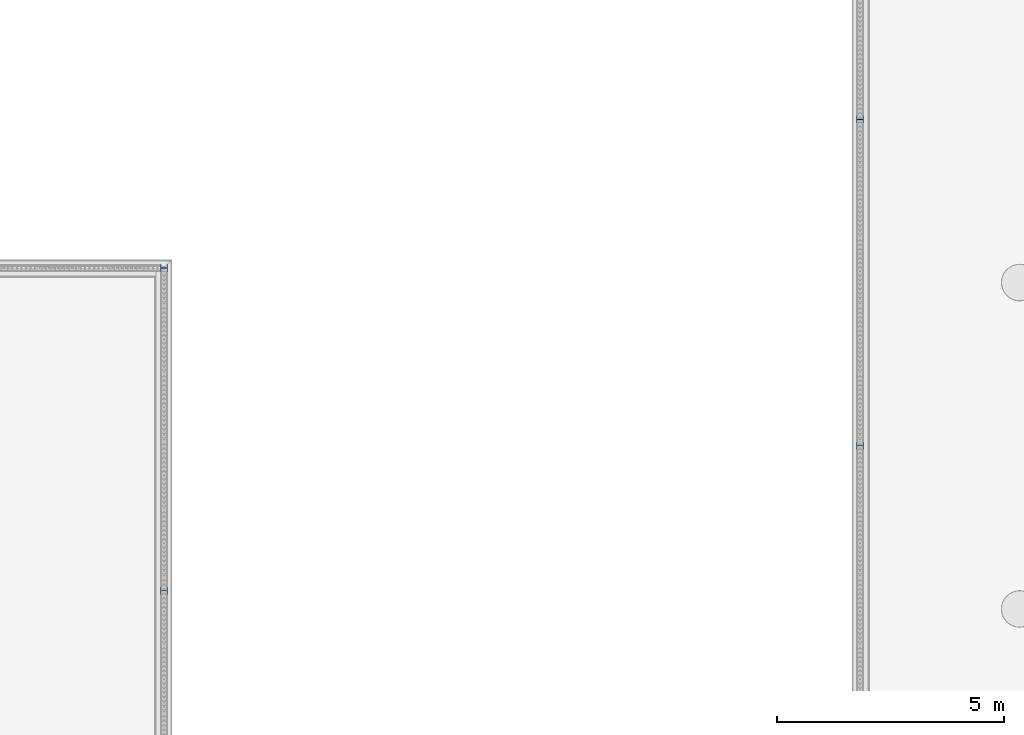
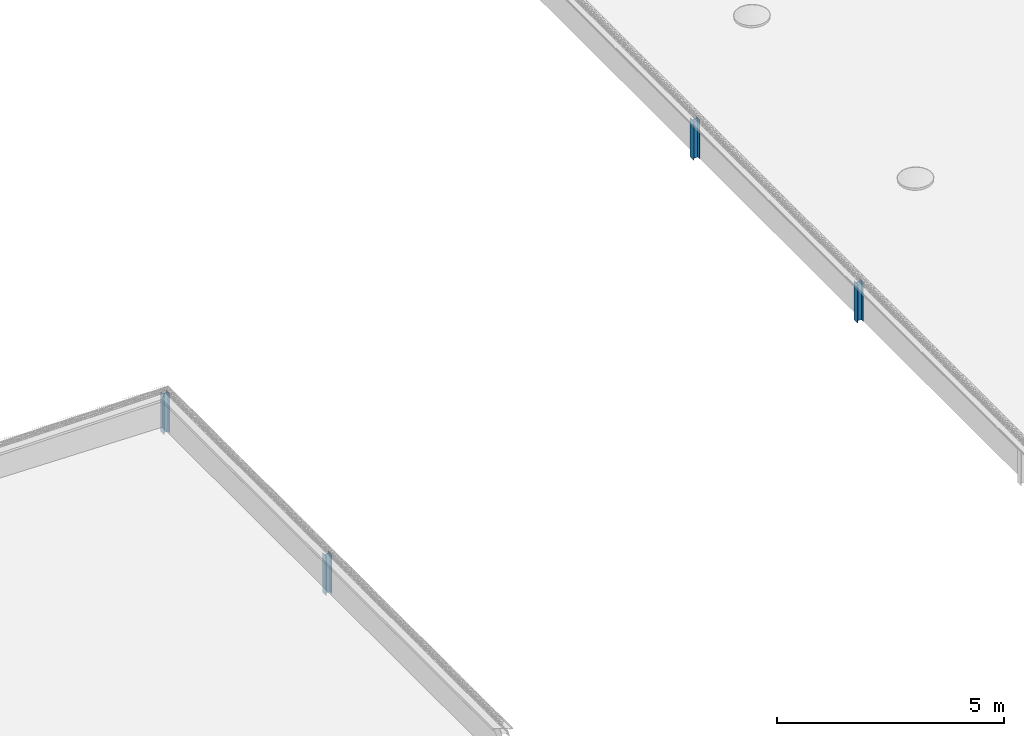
# One storey, part 14 of 81: 4 columns.
"""IFC2X3 building model written with IfcOpenShell, lengths in millimetres."""

from ifc_helpers import new_model, entity, si_unit, converted_unit, derived_unit, money_unit, direction, frame, origin_with_axes, place, context, subcontext, project, spatial, faceted_brep, material, type_object, element, save


model = new_model("IFC2X3")

# Units and contexts
model_context = context("Model", 3, precision=0.01, world=origin_with_axes(), true_north=direction((0.0, 1.0)))
body_context = subcontext(model_context, "Body", "Model", "MODEL_VIEW")
ifc_project = project(units=[si_unit("LENGTHUNIT", "METRE", prefix="MILLI"), si_unit("AREAUNIT", "SQUARE_METRE"), si_unit("VOLUMEUNIT", "CUBIC_METRE"), converted_unit("PLANEANGLEUNIT", "DEGREE", entity("IfcPlaneAngleMeasure", 0.0174532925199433), si_unit("PLANEANGLEUNIT", "RADIAN"), dimensions=[0, 0, 0, 0, 0, 0, 0]), money_unit("EUR"), converted_unit("TIMEUNIT", "Year", entity("IfcTimeMeasure", 31557600.0), si_unit("TIMEUNIT", "SECOND"), dimensions=[0, 0, 1, 0, 0, 0, 0]), si_unit("MASSUNIT", "GRAM", prefix="KILO"), si_unit("THERMODYNAMICTEMPERATUREUNIT", "DEGREE_CELSIUS"), si_unit("LUMINOUSINTENSITYUNIT", "LUMEN"), si_unit("ENERGYUNIT", "JOULE", prefix="MEGA"), derived_unit("THERMALCONDUCTANCEUNIT", [(si_unit("POWERUNIT", "WATT"), 1), (si_unit("LENGTHUNIT", "METRE"), -1), (si_unit("THERMODYNAMICTEMPERATUREUNIT", "KELVIN"), -1)]), derived_unit("SPECIFICHEATCAPACITYUNIT", [(si_unit("ENERGYUNIT", "JOULE"), 1), (si_unit("MASSUNIT", "GRAM", prefix="KILO"), -1), (si_unit("THERMODYNAMICTEMPERATUREUNIT", "KELVIN"), -1)]), derived_unit("MASSDENSITYUNIT", [(si_unit("MASSUNIT", "GRAM", prefix="KILO"), 1), (si_unit("VOLUMEUNIT", "CUBIC_METRE"), -1)])], contexts=[model_context])

# Site, building, storey
site_placement = place(None, origin_with_axes())
site = spatial("IfcSite", under=ifc_project, at=site_placement, Name="Site", CompositionType="ELEMENT")
building_placement = place(site_placement, origin_with_axes())
building = spatial("IfcBuilding", under=site, at=building_placement, Name="Naam gebouw", CompositionType="ELEMENT")
storey_placement = place(building_placement, frame((0.0, 0.0, 15320.0), z_axis=(0.0, 0.0, 1.0), x_axis=(1.0, 0.0, 0.0)))
storey = spatial("IfcBuildingStorey", under=building, at=storey_placement, Name="01 dak", CompositionType="ELEMENT", Elevation=15320.0)

# Columns
ifc_material = material(Name="Metaal - Staal C")
column_type = type_object("IfcColumnType", Name="HEA160 160 x 152", PredefinedType="COLUMN")
for number, where, z_axis, x_axis, name in (
    (1, (68424.0, 87600.00000000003, -400.0393597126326), (0.0, 0.0, 1.0), (0.0, -1.0, 0.0), "HEA160"),
    (2, (68423.99999999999, 94720.00000000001, -400.0393597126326), (0.0, 0.0, 1.0), (0.0, -1.0, 0.0), "HEA160"),
    (3, (83775.99999999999, 90800.0, -400.0393597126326), (0.0, 0.0, 1.0), (0.0, 1.0, 0.0), "HEA160"),
    (4, (83775.99999999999, 98000.0, -400.0393597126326), (0.0, 0.0, 1.0), (0.0, 1.0, 0.0), "HEA160"),
):
    element("IfcColumn", number, at=place(storey_placement, frame(where, z_axis=z_axis, x_axis=x_axis)), inside=storey, type_object=column_type, material=ifc_material, Name=name, ObjectType="COLUMN", context=body_context, shape_type="Brep", body=[
        faceted_brep([(-79.9999999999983, 75.9999999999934, 1055.0), (-79.9999999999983, 75.9999999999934, 0.0), (-79.9999999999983, 66.99999999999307, 0.0), (-79.9999999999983, 66.99999999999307, 1055.0), (79.9999999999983, 75.9999999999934, 1055.0), (79.9999999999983, 75.9999999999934, 0.0), (79.9999999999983, 66.99999999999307, 0.0), (3.000000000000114, 66.99999999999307, 0.0), (3.000000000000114, -66.99999999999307, 0.0), (79.9999999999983, -66.99999999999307, 0.0), (79.9999999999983, -75.9999999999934, 0.0), (-79.9999999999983, -75.9999999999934, 0.0), (-79.9999999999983, -66.99999999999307, 0.0), (-3.000000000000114, -66.99999999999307, 0.0), (-3.000000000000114, 66.99999999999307, 0.0), (-3.000000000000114, 66.99999999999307, 1055.0), (-3.000000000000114, -66.99999999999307, 1055.0), (-79.9999999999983, -66.99999999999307, 1055.0), (-79.9999999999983, -75.9999999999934, 1055.0), (79.9999999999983, -75.9999999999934, 1055.0), (79.9999999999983, -66.99999999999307, 1055.0), (3.000000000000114, -66.99999999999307, 1055.0), (3.000000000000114, 66.99999999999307, 1055.0), (79.9999999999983, 66.99999999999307, 1055.0)], [[[0, 1, 2, 3]], [[4, 5, 1, 0]], [[2, 1, 5, 6, 7, 8, 9, 10, 11, 12, 13, 14]], [[3, 2, 14, 15]], [[4, 0, 3, 15, 16, 17, 18, 19, 20, 21, 22, 23]], [[23, 6, 5, 4]], [[22, 7, 6, 23]], [[21, 8, 7, 22]], [[20, 9, 8, 21]], [[19, 10, 9, 20]], [[18, 11, 10, 19]], [[17, 12, 11, 18]], [[16, 13, 12, 17]], [[15, 14, 13, 16]]]),
    ])

save(model, "model.ifc")
